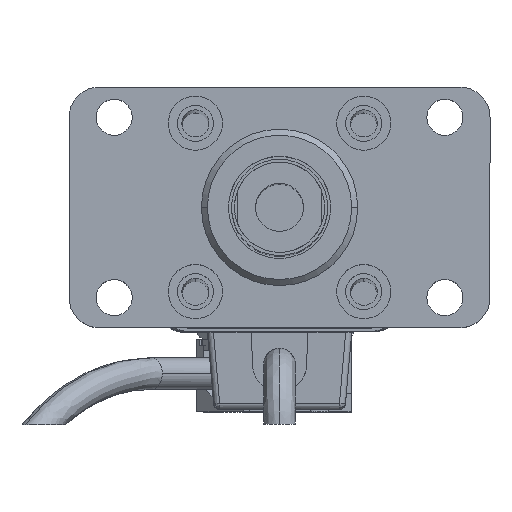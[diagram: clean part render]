
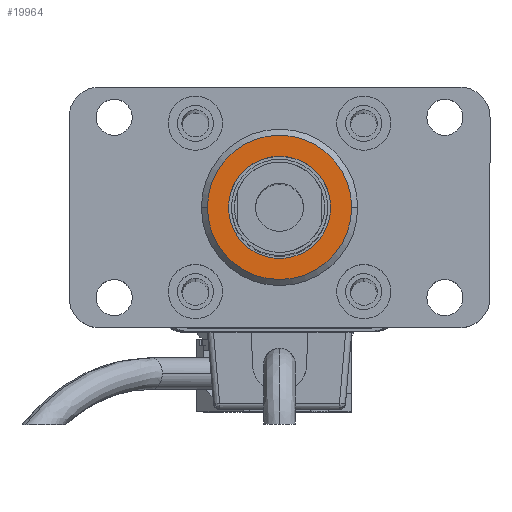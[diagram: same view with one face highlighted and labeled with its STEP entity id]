
A CAD part, top view. The second image highlights one B-rep face of the part: STEP entity #19964.
In plain terms, the highlighted planar face has unit normal (0, 0, 1) as drawn and (0, 0, -1) by its records, which use the part's own axes.
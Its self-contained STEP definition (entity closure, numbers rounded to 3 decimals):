
#562 = DIRECTION ( 'NONE',  ( -1., 0., 0. ) ) ;
#1938 = AXIS2_PLACEMENT_3D ( 'NONE', #11922, #18396, #26895 ) ;
#3217 = FACE_BOUND ( 'NONE', #10023, .T. ) ;
#3678 = CIRCLE ( 'NONE', #13964, 12. ) ;
#3768 = ORIENTED_EDGE ( 'NONE', *, *, #13176, .T. ) ;
#3842 = DIRECTION ( 'NONE',  ( 0., 0., -1. ) ) ;
#4843 = DIRECTION ( 'NONE',  ( -1., 0., 0. ) ) ;
#5979 = CARTESIAN_POINT ( 'NONE',  ( 0., 0., -3. ) ) ;
#6330 = CARTESIAN_POINT ( 'NONE',  ( 0., 0., -3. ) ) ;
#7268 = ORIENTED_EDGE ( 'NONE', *, *, #9117, .T. ) ;
#7479 = VERTEX_POINT ( 'NONE', #26303 ) ;
#7785 = CARTESIAN_POINT ( 'NONE',  ( -12., 0., -3. ) ) ;
#8807 = EDGE_CURVE ( 'NONE', #20513, #7479, #23191, .T. ) ;
#9117 = EDGE_CURVE ( 'NONE', #22592, #20050, #3678, .T. ) ;
#9588 = CARTESIAN_POINT ( 'NONE',  ( 0., 0., -3. ) ) ;
#10023 = EDGE_LOOP ( 'NONE', ( #16953, #27638 ) ) ;
#10321 = AXIS2_PLACEMENT_3D ( 'NONE', #9588, #15988, #562 ) ;
#11188 = CIRCLE ( 'NONE', #1938, 12. ) ;
#11922 = CARTESIAN_POINT ( 'NONE',  ( 0., 0., -3. ) ) ;
#13176 = EDGE_CURVE ( 'NONE', #20050, #22592, #11188, .T. ) ;
#13674 = CARTESIAN_POINT ( 'NONE',  ( -8.5, 0., -3. ) ) ;
#13886 = DIRECTION ( 'NONE',  ( 0., 0., -1. ) ) ;
#13964 = AXIS2_PLACEMENT_3D ( 'NONE', #5979, #3842, #23328 ) ;
#14897 = FACE_OUTER_BOUND ( 'NONE', #24025, .T. ) ;
#15606 = AXIS2_PLACEMENT_3D ( 'NONE', #15815, #13886, #4843 ) ;
#15815 = CARTESIAN_POINT ( 'NONE',  ( 0., 0., -3. ) ) ;
#15988 = DIRECTION ( 'NONE',  ( 0., 0., -1. ) ) ;
#16953 = ORIENTED_EDGE ( 'NONE', *, *, #22175, .F. ) ;
#18396 = DIRECTION ( 'NONE',  ( 0., 0., -1. ) ) ;
#19964 = ADVANCED_FACE ( 'NONE', ( #14897, #3217 ), #20097, .T. ) ;
#19972 = AXIS2_PLACEMENT_3D ( 'NONE', #6330, #23772, #21568 ) ;
#20050 = VERTEX_POINT ( 'NONE', #7785 ) ;
#20097 = PLANE ( 'NONE',  #15606 ) ;
#20116 = CARTESIAN_POINT ( 'NONE',  ( 12., 0., -3. ) ) ;
#20513 = VERTEX_POINT ( 'NONE', #13674 ) ;
#21568 = DIRECTION ( 'NONE',  ( -1., 0., 0. ) ) ;
#22175 = EDGE_CURVE ( 'NONE', #7479, #20513, #27050, .T. ) ;
#22592 = VERTEX_POINT ( 'NONE', #20116 ) ;
#23191 = CIRCLE ( 'NONE', #19972, 8.5 ) ;
#23328 = DIRECTION ( 'NONE',  ( -1., 0., 0. ) ) ;
#23772 = DIRECTION ( 'NONE',  ( 0., 0., -1. ) ) ;
#24025 = EDGE_LOOP ( 'NONE', ( #7268, #3768 ) ) ;
#26303 = CARTESIAN_POINT ( 'NONE',  ( 8.5, 0., -3. ) ) ;
#26895 = DIRECTION ( 'NONE',  ( -1., 0., 0. ) ) ;
#27050 = CIRCLE ( 'NONE', #10321, 8.5 ) ;
#27638 = ORIENTED_EDGE ( 'NONE', *, *, #8807, .F. ) ;
